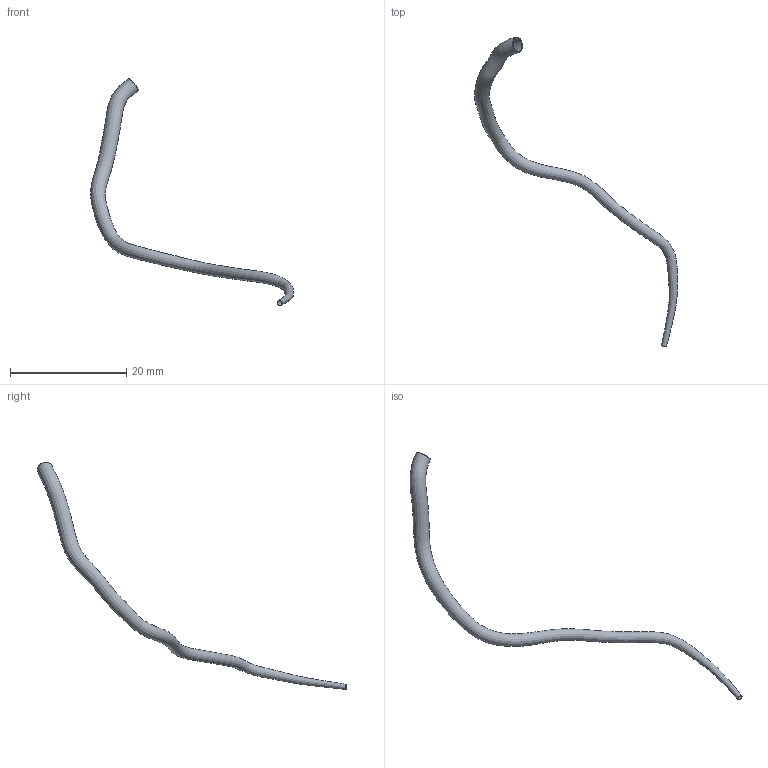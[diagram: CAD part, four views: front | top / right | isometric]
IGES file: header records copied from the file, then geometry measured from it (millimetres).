
Global section: file name: C:\Documents and Settings\Administrator\Desktop\FDA-Pig\Domestic LCA\Pig_000004\lad.seg.es.igs; native system: Rhinoceros ( May 19 2006 ); preprocessor: Trout Lake IGES 012 May 19 2006; date: 111205.183118; units: centimetre
Bounding box: 34.96 x 53.35 x 39.14 mm (x, y, z)
Surface area: 1122.9 mm2 (no closed solid volume)
Topology: 0 solids, 0 shells, 4 faces, 13 edges, 10 vertices
Faces by surface type: bspline 4
